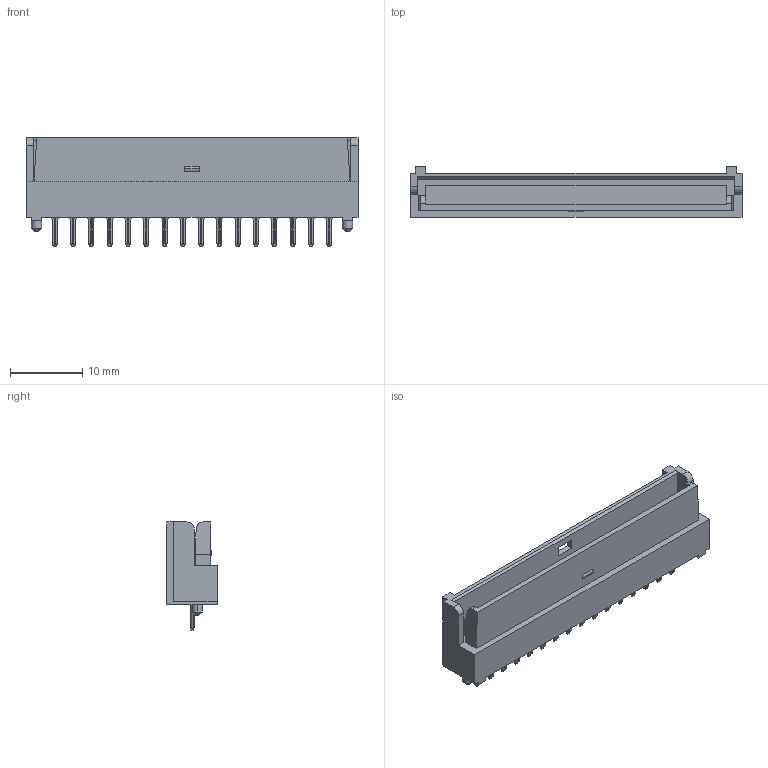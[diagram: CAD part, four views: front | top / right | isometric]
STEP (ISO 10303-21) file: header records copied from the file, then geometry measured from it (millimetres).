
FILE_DESCRIPTION (( 'STEP AP214' ), '1' );
FILE_NAME ('009021161200.STEP', '2016-01-21T05:28:07', ( '' ), ( '' ), 'SwSTEP 2.0', 'SolidWorks 2014', '' );
FILE_SCHEMA (( 'AUTOMOTIVE_DESIGN' ));
Length unit declared in the file: millimetre
Products named in the file (1): 009021161200
Bounding box: 46.1 x 7 x 15 mm (x, y, z)
Volume: 2250 mm3; surface area: 2486.7 mm2
Topology: 17 solids, 17 shells, 480 faces, 1286 edges, 844 vertices
Faces by surface type: plane 370, cylinder 106, cone 4
Entity records: 20622 total; most frequent: CARTESIAN_POINT 3753, ORIENTED_EDGE 2572, DIRECTION 2028, EDGE_CURVE 1286, LINE 958, VECTOR 958, VERTEX_POINT 844, AXIS2_PLACEMENT_3D 535
